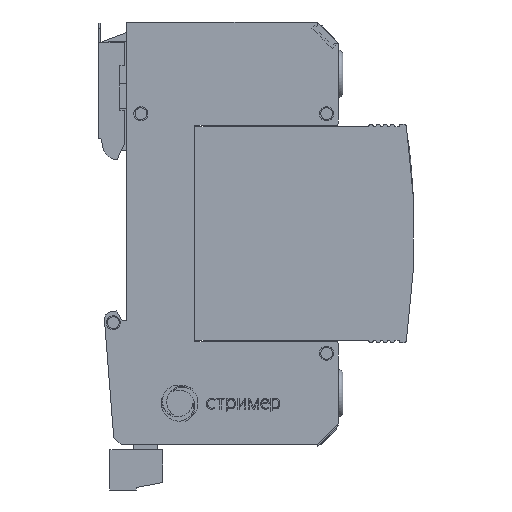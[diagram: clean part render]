
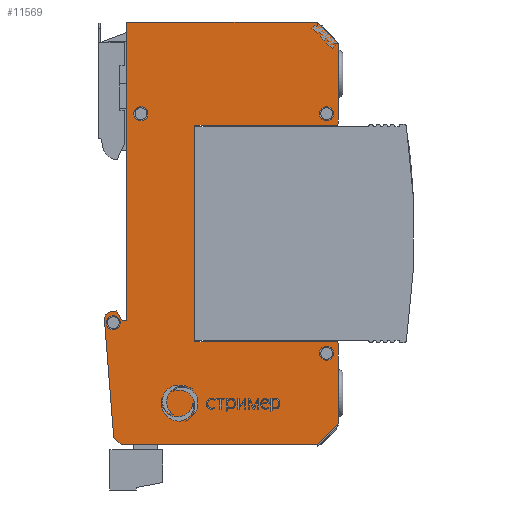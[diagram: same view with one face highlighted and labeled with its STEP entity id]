
A CAD part, front view. The second image highlights one B-rep face of the part: STEP entity #11569.
In plain terms, the highlighted planar face has unit normal (0, -1, 0).
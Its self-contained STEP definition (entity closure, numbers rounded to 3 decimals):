
#9879=CARTESIAN_POINT('',(-14.5,-18.,45.));
#9880=VERTEX_POINT('',#9879);
#9887=CARTESIAN_POINT('',(26.,-18.,45.));
#9888=VERTEX_POINT('',#9887);
#9889=CARTESIAN_POINT('',(-14.5,-18.,45.));
#9890=DIRECTION('',(1.,-0.,-0.));
#9891=VECTOR('',#9890,40.5);
#9892=LINE('',#9889,#9891);
#9893=EDGE_CURVE('',#9880,#9888,#9892,.T.);
#10517=CARTESIAN_POINT('',(-14.5,-18.,-18.5));
#10518=VERTEX_POINT('',#10517);
#10525=CARTESIAN_POINT('',(-14.5,-18.,-18.5));
#10526=DIRECTION('',(-0.,-0.,1.));
#10527=VECTOR('',#10526,63.5);
#10528=LINE('',#10525,#10527);
#10529=EDGE_CURVE('',#10518,#9880,#10528,.T.);
#10724=CARTESIAN_POINT('',(-15.5,-18.,-45.));
#10725=VERTEX_POINT('',#10724);
#10732=CARTESIAN_POINT('',(-17.29,-18.,-43.498));
#10733=VERTEX_POINT('',#10732);
#10734=CARTESIAN_POINT('',(-15.5,-18.,-45.));
#10735=DIRECTION('',(-0.766,-0.,0.643));
#10736=VECTOR('',#10735,2.337);
#10737=LINE('',#10734,#10736);
#10738=EDGE_CURVE('',#10725,#10733,#10737,.T.);
#10763=CARTESIAN_POINT('',(-19.273,-18.,-18.306));
#10764=VERTEX_POINT('',#10763);
#10765=CARTESIAN_POINT('',(-17.29,-18.,-43.498));
#10766=DIRECTION('',(-0.078,-0.,0.997));
#10767=VECTOR('',#10766,25.27);
#10768=LINE('',#10765,#10767);
#10769=EDGE_CURVE('',#10733,#10764,#10768,.T.);
#10795=CARTESIAN_POINT('',(-17.999,-18.,-16.704));
#10796=VERTEX_POINT('',#10795);
#10797=CARTESIAN_POINT('',(-17.777,-18.,-18.188));
#10798=DIRECTION('',(0.,1.,0.));
#10799=DIRECTION('',(0.,-0.,1.));
#10800=AXIS2_PLACEMENT_3D('',#10797,#10798,#10799);
#10801=CIRCLE('',#10800,1.5);
#10802=EDGE_CURVE('',#10764,#10796,#10801,.T.);
#10827=CARTESIAN_POINT('',(-16.632,-18.,-16.5));
#10828=VERTEX_POINT('',#10827);
#10829=CARTESIAN_POINT('',(-17.999,-18.,-16.704));
#10830=DIRECTION('',(0.989,-0.,0.148));
#10831=VECTOR('',#10830,1.383);
#10832=LINE('',#10829,#10831);
#10833=EDGE_CURVE('',#10796,#10828,#10832,.T.);
#10858=CARTESIAN_POINT('',(-15.5,-18.,-18.5));
#10859=VERTEX_POINT('',#10858);
#10860=CARTESIAN_POINT('',(-16.632,-18.,-16.5));
#10861=DIRECTION('',(0.492,0.,-0.87));
#10862=VECTOR('',#10861,2.298);
#10863=LINE('',#10860,#10862);
#10864=EDGE_CURVE('',#10828,#10859,#10863,.T.);
#10887=CARTESIAN_POINT('',(-15.5,-18.,-18.5));
#10888=DIRECTION('',(1.,-0.,-0.));
#10889=VECTOR('',#10888,1.);
#10890=LINE('',#10887,#10889);
#10891=EDGE_CURVE('',#10859,#10518,#10890,.T.);
#10911=CARTESIAN_POINT('',(30.5,-18.,40.5));
#10912=VERTEX_POINT('',#10911);
#10913=CARTESIAN_POINT('',(26.,-18.,45.));
#10914=DIRECTION('',(0.707,0.,-0.707));
#10915=VECTOR('',#10914,6.364);
#10916=LINE('',#10913,#10915);
#10917=EDGE_CURVE('',#9888,#10912,#10916,.T.);
#10962=CARTESIAN_POINT('',(30.5,-18.,23.5));
#10963=VERTEX_POINT('',#10962);
#10964=CARTESIAN_POINT('',(30.5,-18.,40.5));
#10965=DIRECTION('',(-0.,0.,-1.));
#10966=VECTOR('',#10965,17.);
#10967=LINE('',#10964,#10966);
#10968=EDGE_CURVE('',#10912,#10963,#10967,.T.);
#10994=CARTESIAN_POINT('',(30.,-18.,23.));
#10995=VERTEX_POINT('',#10994);
#10996=CARTESIAN_POINT('',(30.,-18.,23.5));
#10997=DIRECTION('',(0.,1.,0.));
#10998=DIRECTION('',(0.,-0.,1.));
#10999=AXIS2_PLACEMENT_3D('',#10996,#10997,#10998);
#11000=CIRCLE('',#10999,0.5);
#11001=EDGE_CURVE('',#10963,#10995,#11000,.T.);
#11026=CARTESIAN_POINT('',(0.,-18.,23.));
#11027=VERTEX_POINT('',#11026);
#11028=CARTESIAN_POINT('',(30.,-18.,23.));
#11029=DIRECTION('',(-1.,-0.,-0.));
#11030=VECTOR('',#11029,30.);
#11031=LINE('',#11028,#11030);
#11032=EDGE_CURVE('',#10995,#11027,#11031,.T.);
#11057=CARTESIAN_POINT('',(0.,-18.,-23.));
#11058=VERTEX_POINT('',#11057);
#11059=CARTESIAN_POINT('',(0.,-18.,23.));
#11060=DIRECTION('',(-0.,0.,-1.));
#11061=VECTOR('',#11060,46.);
#11062=LINE('',#11059,#11061);
#11063=EDGE_CURVE('',#11027,#11058,#11062,.T.);
#11088=CARTESIAN_POINT('',(30.,-18.,-23.));
#11089=VERTEX_POINT('',#11088);
#11090=CARTESIAN_POINT('',(0.,-18.,-23.));
#11091=DIRECTION('',(1.,-0.,-0.));
#11092=VECTOR('',#11091,30.);
#11093=LINE('',#11090,#11092);
#11094=EDGE_CURVE('',#11058,#11089,#11093,.T.);
#11120=CARTESIAN_POINT('',(30.5,-18.,-23.5));
#11121=VERTEX_POINT('',#11120);
#11122=CARTESIAN_POINT('',(30.,-18.,-23.5));
#11123=DIRECTION('',(0.,1.,0.));
#11124=DIRECTION('',(0.,-0.,1.));
#11125=AXIS2_PLACEMENT_3D('',#11122,#11123,#11124);
#11126=CIRCLE('',#11125,0.5);
#11127=EDGE_CURVE('',#11089,#11121,#11126,.T.);
#11172=CARTESIAN_POINT('',(30.5,-18.,-40.5));
#11173=VERTEX_POINT('',#11172);
#11174=CARTESIAN_POINT('',(30.5,-18.,-23.5));
#11175=DIRECTION('',(-0.,0.,-1.));
#11176=VECTOR('',#11175,17.);
#11177=LINE('',#11174,#11176);
#11178=EDGE_CURVE('',#11121,#11173,#11177,.T.);
#11203=CARTESIAN_POINT('',(26.,-18.,-45.));
#11204=VERTEX_POINT('',#11203);
#11205=CARTESIAN_POINT('',(30.5,-18.,-40.5));
#11206=DIRECTION('',(-0.707,0.,-0.707));
#11207=VECTOR('',#11206,6.364);
#11208=LINE('',#11205,#11207);
#11209=EDGE_CURVE('',#11173,#11204,#11208,.T.);
#11225=CARTESIAN_POINT('',(-17.38,-18.,-17.5));
#11226=VERTEX_POINT('',#11225);
#11227=CARTESIAN_POINT('',(-18.88,-18.,-19.));
#11228=VERTEX_POINT('',#11227);
#11229=CARTESIAN_POINT('',(-17.38,-18.,-19.));
#11230=DIRECTION('',(0.,1.,0.));
#11231=DIRECTION('',(0.,-0.,1.));
#11232=AXIS2_PLACEMENT_3D('',#11229,#11230,#11231);
#11233=CIRCLE('',#11232,1.5);
#11234=EDGE_CURVE('',#11226,#11228,#11233,.T.);
#11236=CARTESIAN_POINT('',(-17.38,-18.,-19.));
#11237=DIRECTION('',(0.,1.,0.));
#11238=DIRECTION('',(0.,-0.,1.));
#11239=AXIS2_PLACEMENT_3D('',#11236,#11237,#11238);
#11240=CIRCLE('',#11239,1.5);
#11241=EDGE_CURVE('',#11228,#11226,#11240,.T.);
#11271=CARTESIAN_POINT('',(28.,-18.,-24.));
#11272=VERTEX_POINT('',#11271);
#11273=CARTESIAN_POINT('',(26.5,-18.,-25.5));
#11274=VERTEX_POINT('',#11273);
#11275=CARTESIAN_POINT('',(28.,-18.,-25.5));
#11276=DIRECTION('',(0.,1.,0.));
#11277=DIRECTION('',(0.,-0.,1.));
#11278=AXIS2_PLACEMENT_3D('',#11275,#11276,#11277);
#11279=CIRCLE('',#11278,1.5);
#11280=EDGE_CURVE('',#11272,#11274,#11279,.T.);
#11282=CARTESIAN_POINT('',(28.,-18.,-25.5));
#11283=DIRECTION('',(0.,1.,0.));
#11284=DIRECTION('',(0.,-0.,1.));
#11285=AXIS2_PLACEMENT_3D('',#11282,#11283,#11284);
#11286=CIRCLE('',#11285,1.5);
#11287=EDGE_CURVE('',#11274,#11272,#11286,.T.);
#11317=CARTESIAN_POINT('',(-11.5,-18.,27.));
#11318=VERTEX_POINT('',#11317);
#11319=CARTESIAN_POINT('',(-13.,-18.,25.5));
#11320=VERTEX_POINT('',#11319);
#11321=CARTESIAN_POINT('',(-11.5,-18.,25.5));
#11322=DIRECTION('',(0.,1.,0.));
#11323=DIRECTION('',(0.,-0.,1.));
#11324=AXIS2_PLACEMENT_3D('',#11321,#11322,#11323);
#11325=CIRCLE('',#11324,1.5);
#11326=EDGE_CURVE('',#11318,#11320,#11325,.T.);
#11328=CARTESIAN_POINT('',(-11.5,-18.,25.5));
#11329=DIRECTION('',(0.,1.,0.));
#11330=DIRECTION('',(0.,-0.,1.));
#11331=AXIS2_PLACEMENT_3D('',#11328,#11329,#11330);
#11332=CIRCLE('',#11331,1.5);
#11333=EDGE_CURVE('',#11320,#11318,#11332,.T.);
#11363=CARTESIAN_POINT('',(28.,-18.,27.));
#11364=VERTEX_POINT('',#11363);
#11365=CARTESIAN_POINT('',(26.5,-18.,25.5));
#11366=VERTEX_POINT('',#11365);
#11367=CARTESIAN_POINT('',(28.,-18.,25.5));
#11368=DIRECTION('',(0.,1.,0.));
#11369=DIRECTION('',(0.,-0.,1.));
#11370=AXIS2_PLACEMENT_3D('',#11367,#11368,#11369);
#11371=CIRCLE('',#11370,1.5);
#11372=EDGE_CURVE('',#11364,#11366,#11371,.T.);
#11374=CARTESIAN_POINT('',(28.,-18.,25.5));
#11375=DIRECTION('',(0.,1.,0.));
#11376=DIRECTION('',(0.,-0.,1.));
#11377=AXIS2_PLACEMENT_3D('',#11374,#11375,#11376);
#11378=CIRCLE('',#11377,1.5);
#11379=EDGE_CURVE('',#11366,#11364,#11378,.T.);
#11518=CARTESIAN_POINT('',(26.,-18.,-45.));
#11519=DIRECTION('',(-1.,-0.,-0.));
#11520=VECTOR('',#11519,41.5);
#11521=LINE('',#11518,#11520);
#11522=EDGE_CURVE('',#11204,#10725,#11521,.T.);
#11528=CARTESIAN_POINT('',(0.,-18.,-0.));
#11529=DIRECTION('',(0.,1.,0.));
#11530=DIRECTION('',(0.,0.,-1.));
#11531=AXIS2_PLACEMENT_3D('',#11528,#11529,#11530);
#11532=PLANE('',#11531);
#11533=ORIENTED_EDGE('',*,*,#11379,.T.);
#11534=ORIENTED_EDGE('',*,*,#11372,.T.);
#11535=EDGE_LOOP('',(#11533,#11534));
#11536=FACE_BOUND('',#11535,.T.);
#11537=ORIENTED_EDGE('',*,*,#11333,.T.);
#11538=ORIENTED_EDGE('',*,*,#11326,.T.);
#11539=EDGE_LOOP('',(#11537,#11538));
#11540=FACE_BOUND('',#11539,.T.);
#11541=ORIENTED_EDGE('',*,*,#11287,.T.);
#11542=ORIENTED_EDGE('',*,*,#11280,.T.);
#11543=EDGE_LOOP('',(#11541,#11542));
#11544=FACE_BOUND('',#11543,.T.);
#11545=ORIENTED_EDGE('',*,*,#11241,.T.);
#11546=ORIENTED_EDGE('',*,*,#11234,.T.);
#11547=EDGE_LOOP('',(#11545,#11546));
#11548=FACE_BOUND('',#11547,.T.);
#11549=ORIENTED_EDGE('',*,*,#10738,.F.);
#11550=ORIENTED_EDGE('',*,*,#11522,.F.);
#11551=ORIENTED_EDGE('',*,*,#11209,.F.);
#11552=ORIENTED_EDGE('',*,*,#11178,.F.);
#11553=ORIENTED_EDGE('',*,*,#11127,.F.);
#11554=ORIENTED_EDGE('',*,*,#11094,.F.);
#11555=ORIENTED_EDGE('',*,*,#11063,.F.);
#11556=ORIENTED_EDGE('',*,*,#11032,.F.);
#11557=ORIENTED_EDGE('',*,*,#11001,.F.);
#11558=ORIENTED_EDGE('',*,*,#10968,.F.);
#11559=ORIENTED_EDGE('',*,*,#10917,.F.);
#11560=ORIENTED_EDGE('',*,*,#9893,.F.);
#11561=ORIENTED_EDGE('',*,*,#10529,.F.);
#11562=ORIENTED_EDGE('',*,*,#10891,.F.);
#11563=ORIENTED_EDGE('',*,*,#10864,.F.);
#11564=ORIENTED_EDGE('',*,*,#10833,.F.);
#11565=ORIENTED_EDGE('',*,*,#10802,.F.);
#11566=ORIENTED_EDGE('',*,*,#10769,.F.);
#11567=EDGE_LOOP('',(#11549,#11550,#11551,#11552,#11553,#11554,#11555,#11556,#11557,#11558,#11559,#11560,#11561,#11562,#11563,#11564,#11565,#11566));
#11568=FACE_BOUND('',#11567,.T.);
#11569=ADVANCED_FACE('',(#11536,#11540,#11544,#11548,#11568),#11532,.F.);
